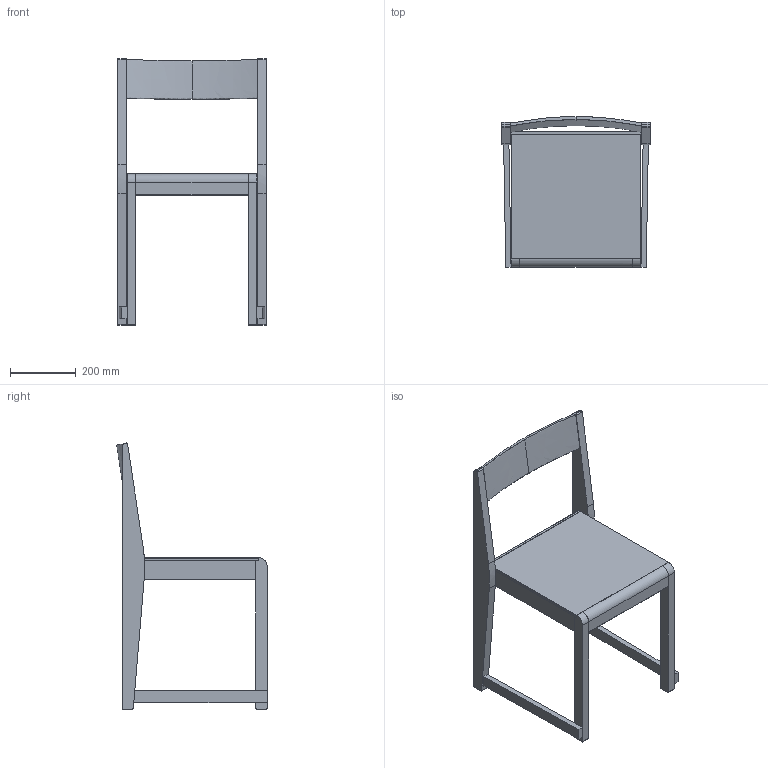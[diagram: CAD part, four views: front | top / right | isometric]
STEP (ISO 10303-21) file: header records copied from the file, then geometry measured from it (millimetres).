
FILE_DESCRIPTION(/* description */ (''),/* implementation_level */ '2;1');
FILE_NAME(/* name */ 'FRAMA_01-Chair-3D',/* time_stamp */ '2025-10-20T15:12:25+02:00',/* author */ (''),/* organization */ (''),/* preprocessor_version */ 'ST-DEVELOPER v16.5',/* originating_system */ 'Rhino 7.38',/* authorisation */ '');
FILE_SCHEMA (('CONFIG_CONTROL_DESIGN'));
Length unit declared in the file: millimetre
Products named in the file (1): Document
Bounding box: 451 x 457.13 x 809.39 mm (x, y, z)
Volume: 7413859.1 mm3; surface area: 1419556.1 mm2
Topology: 13 solids, 14 shells, 112 faces, 254 edges, 169 vertices
Faces by surface type: plane 85, cylinder 23, bspline 4
Entity records: 3985 total; most frequent: CARTESIAN_POINT 2189, ORIENTED_EDGE 507, EDGE_CURVE 254, VERTEX_POINT 169, DIRECTION 114, ADVANCED_FACE 112, FACE_OUTER_BOUND 112, EDGE_LOOP 112
